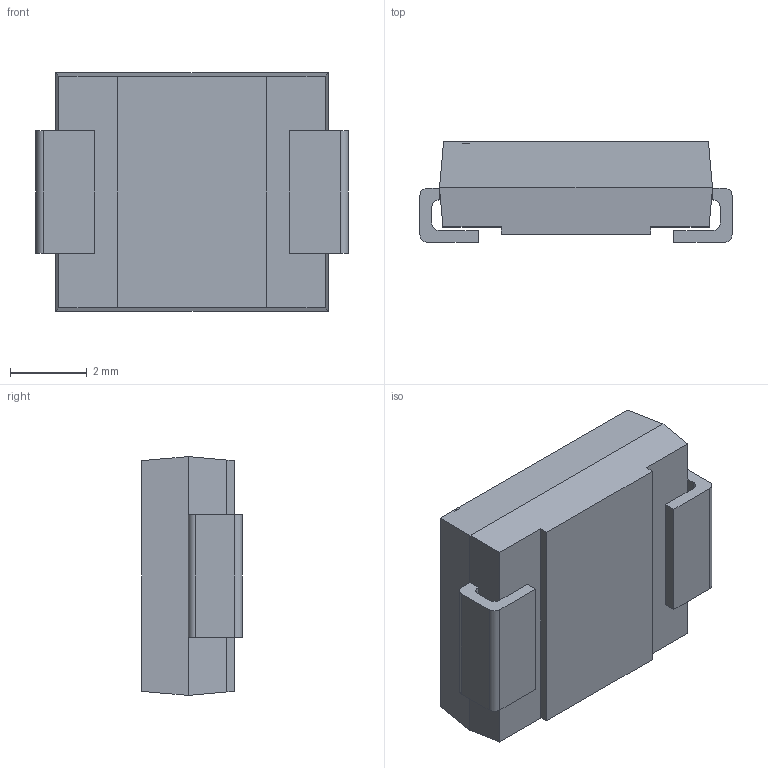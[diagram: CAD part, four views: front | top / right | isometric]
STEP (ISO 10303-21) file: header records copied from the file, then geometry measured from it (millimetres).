
FILE_DESCRIPTION (( 'STEP AP214' ), '1' );
FILE_NAME ('SMCJ51A.STEP', '2023-03-31T06:28:42', ( '' ), ( '' ), 'SwSTEP 2.0', 'SolidWorks 2019', '' );
FILE_SCHEMA (( 'AUTOMOTIVE_DESIGN' ));
Length unit declared in the file: millimetre
Products named in the file (1): SMCJ51A
Bounding box: 8.13 x 2.62 x 6.22 mm (x, y, z)
Volume: 105.4 mm3; surface area: 189.5 mm2
Topology: 3 solids, 3 shells, 66 faces, 160 edges, 100 vertices
Faces by surface type: plane 58, cylinder 8
Entity records: 2460 total; most frequent: CARTESIAN_POINT 327, ORIENTED_EDGE 320, DIRECTION 310, EDGE_CURVE 160, LINE 144, VECTOR 144, VERTEX_POINT 100, AXIS2_PLACEMENT_3D 83
